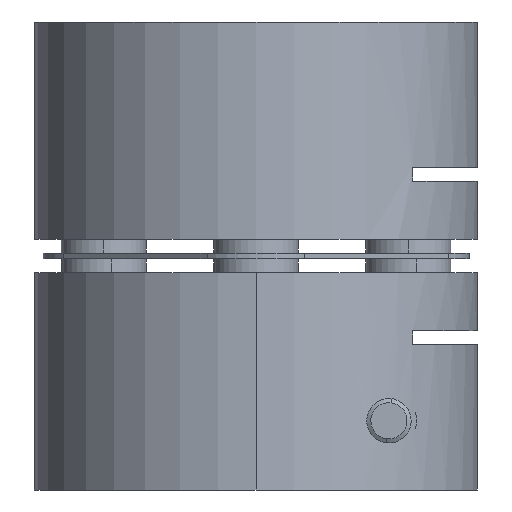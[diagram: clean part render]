
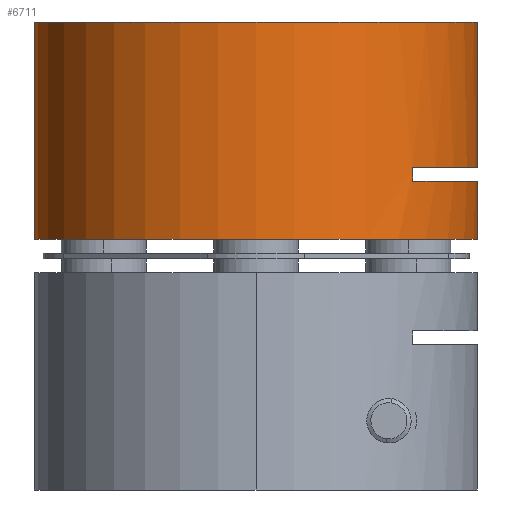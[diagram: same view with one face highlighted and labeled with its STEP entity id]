
A CAD part, front view. The second image highlights one B-rep face of the part: STEP entity #6711.
In plain terms, the highlighted cylindrical face has radius 8 mm (diameter 16 mm), a partial arc.
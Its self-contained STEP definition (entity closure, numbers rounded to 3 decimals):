
#82 = CYLINDRICAL_SURFACE ( 'NONE', #10805, 8. ) ;
#395 = LINE ( 'NONE', #2009, #14071 ) ;
#681 = CARTESIAN_POINT ( 'NONE',  ( -9.236, 56.811, 90.04 ) ) ;
#1086 = DIRECTION ( 'NONE',  ( -1., 0., 0. ) ) ;
#1125 = VECTOR ( 'NONE', #10317, 1000. ) ;
#1547 = FACE_OUTER_BOUND ( 'NONE', #1951, .T. ) ;
#1711 = DIRECTION ( 'NONE',  ( 0., 0., 1. ) ) ;
#1730 = EDGE_CURVE ( 'NONE', #15011, #4309, #7480, .T. ) ;
#1937 = ORIENTED_EDGE ( 'NONE', *, *, #14446, .T. ) ;
#1951 = EDGE_LOOP ( 'NONE', ( #6303, #8682, #11336, #1937, #7947, #4395, #12934, #6485 ) ) ;
#2009 = CARTESIAN_POINT ( 'NONE',  ( 6.764, 56.811, 97.89 ) ) ;
#2040 = CARTESIAN_POINT ( 'NONE',  ( 6.764, 56.811, 97.89 ) ) ;
#2906 = CARTESIAN_POINT ( 'NONE',  ( 6.764, 56.811, 97.89 ) ) ;
#3438 = CARTESIAN_POINT ( 'NONE',  ( -9.236, 56.811, 97.89 ) ) ;
#3763 = DIRECTION ( 'NONE',  ( -1., 0., 0. ) ) ;
#3781 = DIRECTION ( 'NONE',  ( 0., 0., -1. ) ) ;
#3907 = CIRCLE ( 'NONE', #9010, 8. ) ;
#3912 = CARTESIAN_POINT ( 'NONE',  ( 6.764, 56.811, 92.64 ) ) ;
#4309 = VERTEX_POINT ( 'NONE', #2906 ) ;
#4395 = ORIENTED_EDGE ( 'NONE', *, *, #12999, .T. ) ;
#4434 = DIRECTION ( 'NONE',  ( 0., 0., -1. ) ) ;
#4575 = LINE ( 'NONE', #10044, #12325 ) ;
#4731 = CARTESIAN_POINT ( 'NONE',  ( -1.236, 56.811, 97.89 ) ) ;
#5797 = CARTESIAN_POINT ( 'NONE',  ( -9.236, 56.811, 97.89 ) ) ;
#5952 = VERTEX_POINT ( 'NONE', #681 ) ;
#6263 = VERTEX_POINT ( 'NONE', #12495 ) ;
#6303 = ORIENTED_EDGE ( 'NONE', *, *, #7116, .F. ) ;
#6446 = VERTEX_POINT ( 'NONE', #11934 ) ;
#6485 = ORIENTED_EDGE ( 'NONE', *, *, #9972, .F. ) ;
#6711 = ADVANCED_FACE ( 'NONE', ( #1547 ), #82, .T. ) ;
#6719 = AXIS2_PLACEMENT_3D ( 'NONE', #13725, #13668, #13620 ) ;
#7000 = DIRECTION ( 'NONE',  ( 0., 0., -1. ) ) ;
#7116 = EDGE_CURVE ( 'NONE', #4309, #11176, #395, .T. ) ;
#7480 = CIRCLE ( 'NONE', #6719, 8. ) ;
#7947 = ORIENTED_EDGE ( 'NONE', *, *, #14191, .F. ) ;
#8248 = DIRECTION ( 'NONE',  ( 0., 0., -1. ) ) ;
#8652 = CARTESIAN_POINT ( 'NONE',  ( 6.764, 56.811, 90.04 ) ) ;
#8682 = ORIENTED_EDGE ( 'NONE', *, *, #1730, .F. ) ;
#8858 = CARTESIAN_POINT ( 'NONE',  ( -1.236, 56.811, 90.04 ) ) ;
#9010 = AXIS2_PLACEMENT_3D ( 'NONE', #8858, #1711, #9999 ) ;
#9022 = CARTESIAN_POINT ( 'NONE',  ( 6.764, 56.811, 92.14 ) ) ;
#9972 = EDGE_CURVE ( 'NONE', #11176, #6263, #11054, .T. ) ;
#9999 = DIRECTION ( 'NONE',  ( 1., 0., 0. ) ) ;
#10044 = CARTESIAN_POINT ( 'NONE',  ( 4.421, 51.155, 97.89 ) ) ;
#10211 = VECTOR ( 'NONE', #7000, 1000. ) ;
#10317 = DIRECTION ( 'NONE',  ( 0., 0., -1. ) ) ;
#10499 = VERTEX_POINT ( 'NONE', #9022 ) ;
#10566 = DIRECTION ( 'NONE',  ( 0., 0., -1. ) ) ;
#10805 = AXIS2_PLACEMENT_3D ( 'NONE', #4731, #10566, #3763 ) ;
#10819 = CARTESIAN_POINT ( 'NONE',  ( -1.236, 56.811, 92.64 ) ) ;
#11054 = CIRCLE ( 'NONE', #14418, 8. ) ;
#11176 = VERTEX_POINT ( 'NONE', #3912 ) ;
#11336 = ORIENTED_EDGE ( 'NONE', *, *, #11956, .T. ) ;
#11497 = EDGE_CURVE ( 'NONE', #6446, #6263, #4575, .T. ) ;
#11934 = CARTESIAN_POINT ( 'NONE',  ( 4.421, 51.155, 92.14 ) ) ;
#11939 = DIRECTION ( 'NONE',  ( -1., 0., 0. ) ) ;
#11956 = EDGE_CURVE ( 'NONE', #15011, #5952, #13194, .T. ) ;
#12325 = VECTOR ( 'NONE', #14523, 1000. ) ;
#12350 = VERTEX_POINT ( 'NONE', #8652 ) ;
#12495 = CARTESIAN_POINT ( 'NONE',  ( 4.421, 51.155, 92.64 ) ) ;
#12625 = AXIS2_PLACEMENT_3D ( 'NONE', #14952, #8248, #1086 ) ;
#12934 = ORIENTED_EDGE ( 'NONE', *, *, #11497, .T. ) ;
#12999 = EDGE_CURVE ( 'NONE', #10499, #6446, #13181, .T. ) ;
#13181 = CIRCLE ( 'NONE', #12625, 8. ) ;
#13194 = LINE ( 'NONE', #5797, #10211 ) ;
#13620 = DIRECTION ( 'NONE',  ( 1., 0., 0. ) ) ;
#13668 = DIRECTION ( 'NONE',  ( 0., 0., 1. ) ) ;
#13725 = CARTESIAN_POINT ( 'NONE',  ( -1.236, 56.811, 97.89 ) ) ;
#13862 = LINE ( 'NONE', #2040, #1125 ) ;
#14071 = VECTOR ( 'NONE', #4434, 1000. ) ;
#14191 = EDGE_CURVE ( 'NONE', #10499, #12350, #13862, .T. ) ;
#14418 = AXIS2_PLACEMENT_3D ( 'NONE', #10819, #3781, #11939 ) ;
#14446 = EDGE_CURVE ( 'NONE', #5952, #12350, #3907, .T. ) ;
#14523 = DIRECTION ( 'NONE',  ( 0., 0., 1. ) ) ;
#14952 = CARTESIAN_POINT ( 'NONE',  ( -1.236, 56.811, 92.14 ) ) ;
#15011 = VERTEX_POINT ( 'NONE', #3438 ) ;
